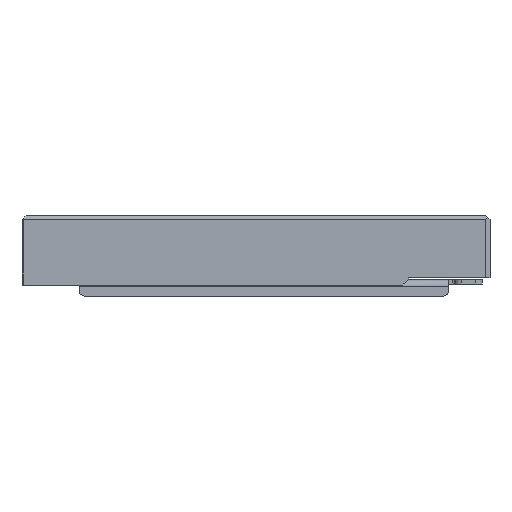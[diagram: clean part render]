
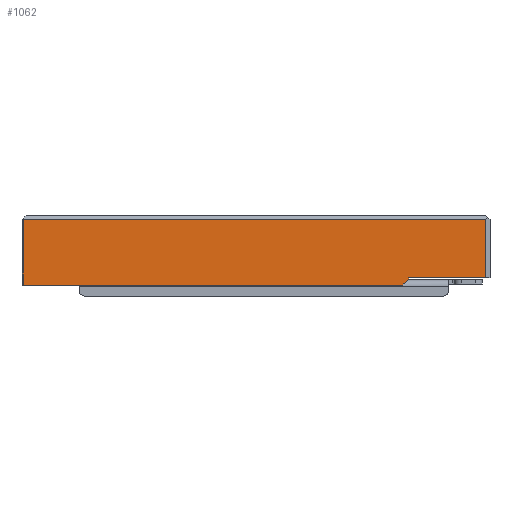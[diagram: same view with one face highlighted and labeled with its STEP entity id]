
A CAD part, left-side view. The second image highlights one B-rep face of the part: STEP entity #1062.
In plain terms, the highlighted planar face has unit normal (-1, 0, 0).
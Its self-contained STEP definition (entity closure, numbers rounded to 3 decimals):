
#1062=ADVANCED_FACE('',(#1259),#1142,.T.);
#1142=PLANE('',#3320);
#1259=FACE_OUTER_BOUND('',#1380,.T.);
#1380=EDGE_LOOP('',(#2029,#2030,#2031,#2032,#2033,#2034,#2035));
#2029=ORIENTED_EDGE('',*,*,#2731,.F.);
#2030=ORIENTED_EDGE('',*,*,#2710,.F.);
#2031=ORIENTED_EDGE('',*,*,#2716,.T.);
#2032=ORIENTED_EDGE('',*,*,#2715,.T.);
#2033=ORIENTED_EDGE('',*,*,#2742,.T.);
#2034=ORIENTED_EDGE('',*,*,#2743,.T.);
#2035=ORIENTED_EDGE('',*,*,#2739,.F.);
#2395=VERTEX_POINT('',#4681);
#2396=VERTEX_POINT('',#4697);
#2397=VERTEX_POINT('',#4704);
#2400=VERTEX_POINT('',#4710);
#2408=VERTEX_POINT('',#4763);
#2414=VERTEX_POINT('',#4779);
#2416=VERTEX_POINT('',#4785);
#2710=EDGE_CURVE('',#2396,#2395,#2926,.T.);
#2715=EDGE_CURVE('',#2397,#2400,#2931,.T.);
#2716=EDGE_CURVE('',#2396,#2397,#2932,.T.);
#2731=EDGE_CURVE('',#2395,#2408,#2943,.T.);
#2739=EDGE_CURVE('',#2408,#2414,#2951,.T.);
#2742=EDGE_CURVE('',#2400,#2416,#2954,.T.);
#2743=EDGE_CURVE('',#2416,#2414,#2955,.T.);
#2926=LINE('',#4698,#3121);
#2931=LINE('',#4711,#3126);
#2932=LINE('',#4713,#3127);
#2943=LINE('',#4762,#3138);
#2951=LINE('',#4778,#3146);
#2954=LINE('',#4784,#3149);
#2955=LINE('',#4786,#3150);
#3121=VECTOR('',#3670,1.);
#3126=VECTOR('',#3675,1.);
#3127=VECTOR('',#3678,1.);
#3138=VECTOR('',#3695,1.);
#3146=VECTOR('',#3707,1.);
#3149=VECTOR('',#3712,1.);
#3150=VECTOR('',#3713,1.);
#3320=AXIS2_PLACEMENT_3D('',#4787,#3714,#3715);
#3670=DIRECTION('',(0.,0.707,-0.707));
#3675=DIRECTION('',(0.,-1.,0.));
#3678=DIRECTION('',(0.,0.,1.));
#3695=DIRECTION('',(0.,1.,0.));
#3707=DIRECTION('',(0.,0.,1.));
#3712=DIRECTION('',(0.,0.,1.));
#3713=DIRECTION('',(0.,1.,0.));
#3714=DIRECTION('',(-1.,0.,0.));
#3715=DIRECTION('',(0.,0.,-1.));
#4681=CARTESIAN_POINT('',(-64.,-4.955,-5.275));
#4697=CARTESIAN_POINT('',(-64.,-7.755,-2.475));
#4698=CARTESIAN_POINT('',(-64.,31.07,-41.3));
#4704=CARTESIAN_POINT('',(-64.,-7.755,-1.775));
#4710=CARTESIAN_POINT('',(-64.,-45.755,-1.775));
#4711=CARTESIAN_POINT('',(-64.,-7.755,-1.775));
#4713=CARTESIAN_POINT('',(-64.,-7.755,-1.775));
#4762=CARTESIAN_POINT('',(-64.,67.095,-5.275));
#4763=CARTESIAN_POINT('',(-64.,181.445,-5.275));
#4778=CARTESIAN_POINT('',(-64.,181.445,-5.275));
#4779=CARTESIAN_POINT('',(-64.,181.445,26.725));
#4784=CARTESIAN_POINT('',(-64.,-45.755,-5.275));
#4785=CARTESIAN_POINT('',(-64.,-45.755,26.725));
#4786=CARTESIAN_POINT('',(-64.,67.095,26.725));
#4787=CARTESIAN_POINT('',(-64.,67.095,-5.275));
